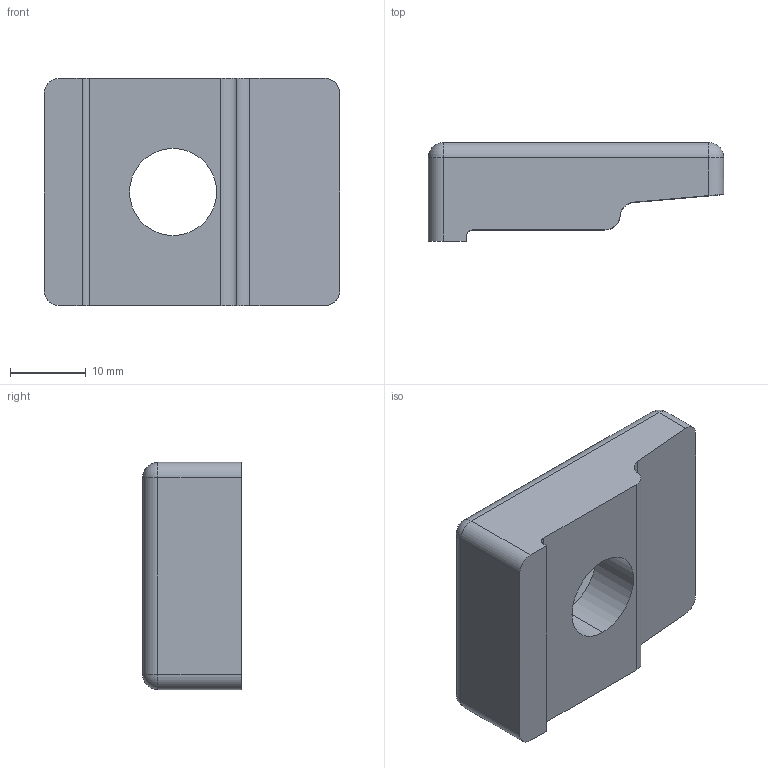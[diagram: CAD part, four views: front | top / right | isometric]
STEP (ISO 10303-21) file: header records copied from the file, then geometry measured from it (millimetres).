
FILE_DESCRIPTION (( 'STEP AP214' ), '1' );
FILE_NAME ('N900067_0-stp-KP1_1100_AS_ISO_313_Klemmplatte.STEP', '2018-07-03T10:49:01', ( '' ), ( '' ), 'SwSTEP 2.0', 'SolidWorks 2017', '' );
FILE_SCHEMA (( 'AUTOMOTIVE_DESIGN' ));
Length unit declared in the file: millimetre
Products named in the file (1): N900067_0-stp-KP1_1100_AS_ISO_313_Klemmplatte
Bounding box: 39 x 13 x 30 mm (x, y, z)
Volume: 9901.4 mm3; surface area: 3991.4 mm2
Topology: 1 solids, 1 shells, 34 faces, 85 edges, 50 vertices
Faces by surface type: plane 17, cylinder 13, sphere 4
Entity records: 1011 total; most frequent: DIRECTION 173, CARTESIAN_POINT 172, ORIENTED_EDGE 162, EDGE_CURVE 81, AXIS2_PLACEMENT_3D 59, LINE 55, VECTOR 55, VERTEX_POINT 50
